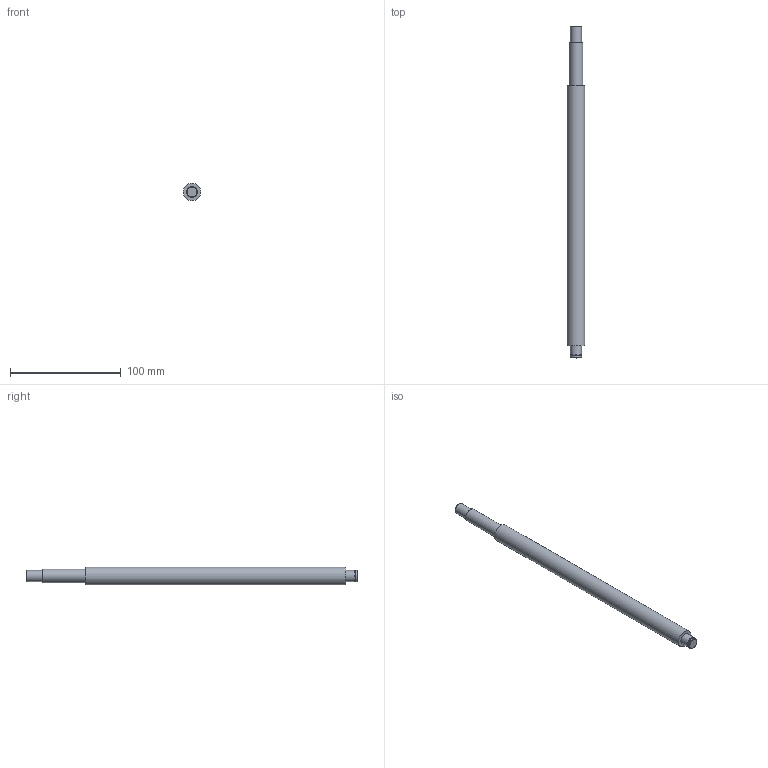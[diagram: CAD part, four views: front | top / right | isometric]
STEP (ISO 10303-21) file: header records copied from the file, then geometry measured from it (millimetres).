
FILE_DESCRIPTION(/* description */ (''),/* implementation_level */ '2;1');
FILE_NAME(/* name */ 'C:\Users\David\Desktop\stepFiles\Profilfuehrung\KUS1605x300.stp',/* time_stamp */ '2018-06-24T15:08:44+02:00',/* author */ ('David'),/* organization */ (''),/* preprocessor_version */ 'ST-DEVELOPER v17',/* originating_system */ 'Autodesk Inventor 2019',/* authorisation */ '');
FILE_SCHEMA (('AUTOMOTIVE_DESIGN { 1 0 10303 214 3 1 1 }'));
Length unit declared in the file: millimetre
Products named in the file (1): SFU1605xvariabel
Bounding box: 16 x 300 x 16 mm (x, y, z)
Volume: 53687.7 mm3; surface area: 14493.4 mm2
Topology: 1 solids, 1 shells, 15 faces, 34 edges, 26 vertices
Faces by surface type: plane 7, cylinder 6, cone 2
Full cylindrical faces by diameter (mm): 9.6 x1, 10 x3, 12 x1, 16 x1
Entity records: 493 total; most frequent: DIRECTION 92, CARTESIAN_POINT 76, ORIENTED_EDGE 68, AXIS2_PLACEMENT_3D 42, EDGE_CURVE 34, CIRCLE 26, VERTEX_POINT 26, EDGE_LOOP 20
